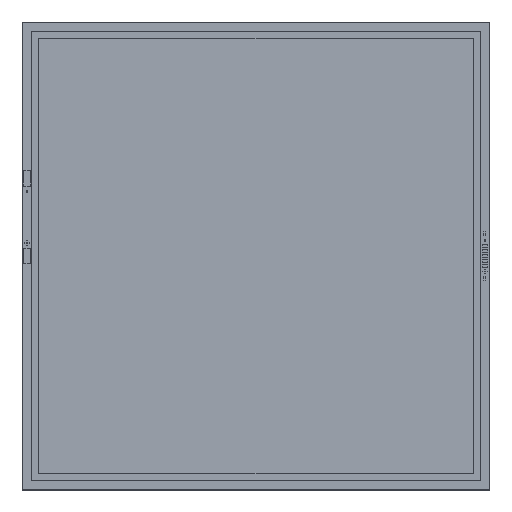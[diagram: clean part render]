
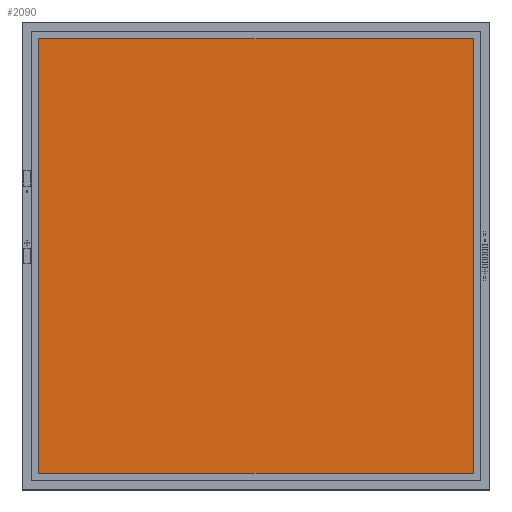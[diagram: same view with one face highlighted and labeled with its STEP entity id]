
A CAD part, top view. The second image highlights one B-rep face of the part: STEP entity #2090.
In plain terms, the highlighted planar face has unit normal (0, 0, 1).
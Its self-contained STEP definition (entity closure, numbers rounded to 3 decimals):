
#248=FACE_OUTER_BOUND($,#372,.T.);
#372=EDGE_LOOP($,(#1847,#1848,#1849,#1850));
#621=LINE($,#3262,#885);
#624=LINE($,#3268,#888);
#627=LINE($,#3274,#891);
#630=LINE($,#3278,#894);
#885=VECTOR($,#2687,111.8);
#888=VECTOR($,#2692,111.8);
#891=VECTOR($,#2697,111.8);
#894=VECTOR($,#2702,111.8);
#1069=VERTEX_POINT($,#3259);
#1070=VERTEX_POINT($,#3261);
#1072=VERTEX_POINT($,#3267);
#1074=VERTEX_POINT($,#3273);
#1325=EDGE_CURVE($,#1070,#1069,#621,.T.);
#1328=EDGE_CURVE($,#1072,#1070,#624,.T.);
#1331=EDGE_CURVE($,#1074,#1072,#627,.T.);
#1334=EDGE_CURVE($,#1069,#1074,#630,.T.);
#1847=ORIENTED_EDGE($,*,*,#1334,.T.);
#1848=ORIENTED_EDGE($,*,*,#1331,.T.);
#1849=ORIENTED_EDGE($,*,*,#1328,.T.);
#1850=ORIENTED_EDGE($,*,*,#1325,.T.);
#1979=PLANE($,#2218);
#2090=ADVANCED_FACE($,(#248),#1979,.T.);
#2218=AXIS2_PLACEMENT_3D($,#3280,#2705,#2706);
#2687=DIRECTION($,(0.,1.,0.));
#2692=DIRECTION($,(1.,0.,0.));
#2697=DIRECTION($,(0.,-1.,0.));
#2702=DIRECTION($,(-1.,0.,0.));
#2705=DIRECTION('center_axis',(0.,0.,1.));
#2706=DIRECTION('ref_axis',(1.,0.,0.));
#3259=CARTESIAN_POINT('',(55.9,55.9,0.26));
#3261=CARTESIAN_POINT('',(55.9,-55.9,0.26));
#3262=CARTESIAN_POINT($,(55.9,55.9,0.26));
#3267=CARTESIAN_POINT('',(-55.9,-55.9,0.26));
#3268=CARTESIAN_POINT($,(55.9,-55.9,0.26));
#3273=CARTESIAN_POINT('',(-55.9,55.9,0.26));
#3274=CARTESIAN_POINT($,(-55.9,-55.9,0.26));
#3278=CARTESIAN_POINT($,(-55.9,55.9,0.26));
#3280=CARTESIAN_POINT('Origin',(0.,0.,
0.26));
